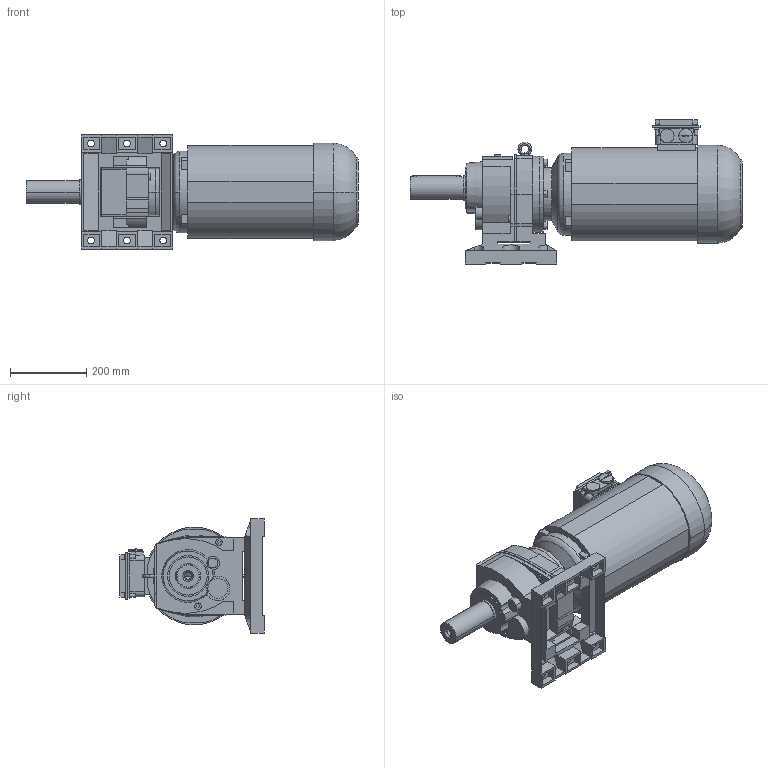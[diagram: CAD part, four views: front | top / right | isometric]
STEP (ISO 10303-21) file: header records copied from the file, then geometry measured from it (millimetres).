
FILE_DESCRIPTION(('STEP AP214'),'1');
FILE_NAME('STEP-File.stp','2018-01-01T00:00:00',(' '),('KEB'),' ','KEB-DRIVE',' ');
FILE_SCHEMA(('AUTOMOTIVE_DESIGN { 1 0 10303 214 1 1 1 1 }'));
Length unit declared in the file: millimetre
Products named in the file (9): z4a; w4_we_60x140; ca4; dm132_kkn; kk10; PLUG_M32; SCREW-PLUG_M32; ndm132; ZG43 DM132SB4§CAD13
Assembly tree (8 placements, depth 2):
  ZG43 DM132SB4§CAD13
    z4a
    w4_we_60x140
    ca4
    dm132_kkn
    kk10
    PLUG_M32
    SCREW-PLUG_M32
    ndm132
Bounding box: 873.5 x 379.6 x 300 mm (x, y, z)
Volume: 32865481.2 mm3; surface area: 1290297.5 mm2
Topology: 8 solids, 8 shells, 507 faces, 1360 edges, 895 vertices
Faces by surface type: plane 362, cylinder 106, torus 19, cone 18, bspline 2
Entity records: 17859 total; most frequent: CARTESIAN_POINT 5216, ORIENTED_EDGE 2716, DIRECTION 2353, EDGE_CURVE 1358, VECTOR 987, LINE 987, VERTEX_POINT 895, AXIS2_PLACEMENT_3D 683
